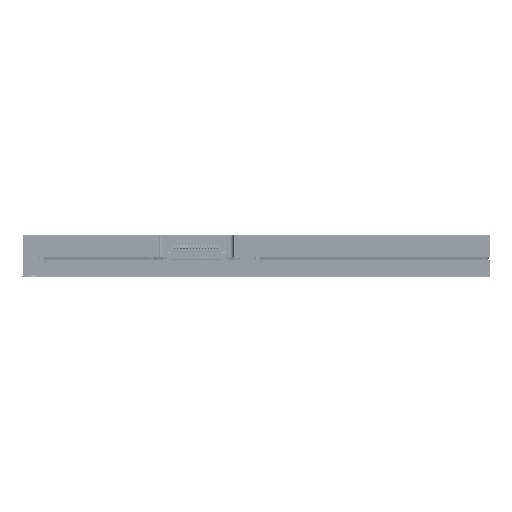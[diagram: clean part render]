
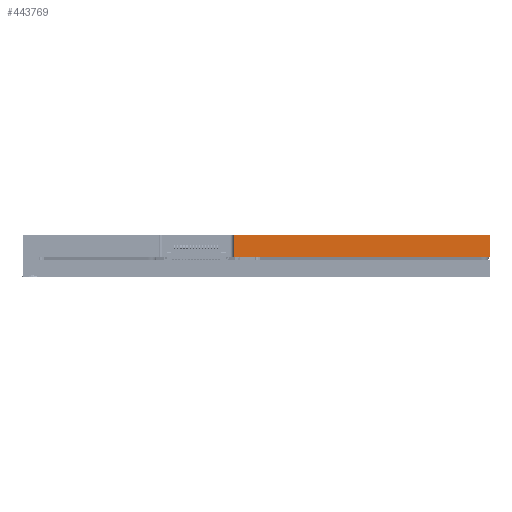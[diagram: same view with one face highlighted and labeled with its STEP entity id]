
A CAD part, front view. The second image highlights one B-rep face of the part: STEP entity #443769.
In plain terms, the highlighted free-form (B-spline) face has degree [1, 1] with [2, 2] control points.
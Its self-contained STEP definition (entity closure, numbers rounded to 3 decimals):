
#419242 = B_SPLINE_SURFACE_WITH_KNOTS('',1,1,(
    (#419243,#419244)
    ,(#419245,#419246
    )),.UNSPECIFIED.,.F.,.F.,.F.,(2,2),(2,2),(0.,1.),(0.,1.),
  .PIECEWISE_BEZIER_KNOTS.);
#419243 = CARTESIAN_POINT('',(76.2,0.,0.508));
#419244 = CARTESIAN_POINT('',(2.704,0.,0.508));
#419245 = CARTESIAN_POINT('',(76.2,35.56,0.508));
#419246 = CARTESIAN_POINT('',(2.704,35.56,0.508));
#428023 = VERTEX_POINT('',#428024);
#428024 = CARTESIAN_POINT('',(34.405,0.,0.508));
#428037 = B_SPLINE_SURFACE_WITH_KNOTS('',1,1,(
    (#428038,#428039)
    ,(#428040,#428041
    )),.UNSPECIFIED.,.F.,.F.,.F.,(2,2),(2,2),(0.,1.),(0.,1.),
  .PIECEWISE_BEZIER_KNOTS.);
#428038 = CARTESIAN_POINT('',(34.405,5.192,4.064));
#428039 = CARTESIAN_POINT('',(34.405,5.192,0.508));
#428040 = CARTESIAN_POINT('',(34.405,0.,4.064));
#428041 = CARTESIAN_POINT('',(34.405,0.,0.508));
#428048 = EDGE_CURVE('',#428023,#428049,#428051,.T.);
#428049 = VERTEX_POINT('',#428050);
#428050 = CARTESIAN_POINT('',(76.2,0.,0.508));
#428051 = SURFACE_CURVE('',#428052,(#428056,#428062),.PCURVE_S1.);
#428052 = LINE('',#428053,#428054);
#428053 = CARTESIAN_POINT('',(34.405,0.,0.508));
#428054 = VECTOR('',#428055,1.);
#428055 = DIRECTION('',(1.,0.,-0.));
#428056 = PCURVE('',#419242,#428057);
#428057 = DEFINITIONAL_REPRESENTATION('',(#428058),#428061);
#428058 = B_SPLINE_CURVE_WITH_KNOTS('',1,(#428059,#428060),
  .UNSPECIFIED.,.F.,.F.,(2,2),(0.,41.795),
  .PIECEWISE_BEZIER_KNOTS.);
#428059 = CARTESIAN_POINT('',(0.,0.569));
#428060 = CARTESIAN_POINT('',(0.,0.));
#428061 = ( GEOMETRIC_REPRESENTATION_CONTEXT(2) 
PARAMETRIC_REPRESENTATION_CONTEXT() REPRESENTATION_CONTEXT('2D SPACE',''
  ) );
#428062 = PCURVE('',#428063,#428068);
#428063 = B_SPLINE_SURFACE_WITH_KNOTS('',1,1,(
    (#428064,#428065)
    ,(#428066,#428067
    )),.UNSPECIFIED.,.F.,.F.,.F.,(2,2),(2,2),(0.,1.),(0.,1.),
  .PIECEWISE_BEZIER_KNOTS.);
#428064 = CARTESIAN_POINT('',(34.405,0.,4.064));
#428065 = CARTESIAN_POINT('',(34.405,0.,0.508));
#428066 = CARTESIAN_POINT('',(76.2,0.,4.064));
#428067 = CARTESIAN_POINT('',(76.2,0.,0.508));
#428068 = DEFINITIONAL_REPRESENTATION('',(#428069),#428072);
#428069 = B_SPLINE_CURVE_WITH_KNOTS('',1,(#428070,#428071),
  .UNSPECIFIED.,.F.,.F.,(2,2),(0.,41.795),
  .PIECEWISE_BEZIER_KNOTS.);
#428070 = CARTESIAN_POINT('',(0.,1.));
#428071 = CARTESIAN_POINT('',(1.,1.));
#428072 = ( GEOMETRIC_REPRESENTATION_CONTEXT(2) 
PARAMETRIC_REPRESENTATION_CONTEXT() REPRESENTATION_CONTEXT('2D SPACE',''
  ) );
#428089 = B_SPLINE_SURFACE_WITH_KNOTS('',1,1,(
    (#428090,#428091)
    ,(#428092,#428093
    )),.UNSPECIFIED.,.F.,.F.,.F.,(2,2),(2,2),(0.,1.),(0.,1.),
  .PIECEWISE_BEZIER_KNOTS.);
#428090 = CARTESIAN_POINT('',(76.2,0.,4.064));
#428091 = CARTESIAN_POINT('',(76.2,0.,0.508));
#428092 = CARTESIAN_POINT('',(76.2,35.56,4.064));
#428093 = CARTESIAN_POINT('',(76.2,35.56,0.508));
#436351 = B_SPLINE_SURFACE_WITH_KNOTS('',1,1,(
    (#436352,#436353)
    ,(#436354,#436355
    )),.UNSPECIFIED.,.F.,.F.,.F.,(2,2),(2,2),(0.,1.),(0.,1.),
  .PIECEWISE_BEZIER_KNOTS.);
#436352 = CARTESIAN_POINT('',(76.2,0.,4.064));
#436353 = CARTESIAN_POINT('',(0.,0.,4.064));
#436354 = CARTESIAN_POINT('',(76.2,35.56,4.064));
#436355 = CARTESIAN_POINT('',(0.,35.56,4.064));
#438049 = VERTEX_POINT('',#438050);
#438050 = CARTESIAN_POINT('',(34.405,0.,4.064));
#438069 = EDGE_CURVE('',#438049,#438070,#438072,.T.);
#438070 = VERTEX_POINT('',#438071);
#438071 = CARTESIAN_POINT('',(76.2,0.,4.064));
#438072 = SURFACE_CURVE('',#438073,(#438077,#438083),.PCURVE_S1.);
#438073 = LINE('',#438074,#438075);
#438074 = CARTESIAN_POINT('',(34.405,0.,4.064));
#438075 = VECTOR('',#438076,1.);
#438076 = DIRECTION('',(1.,0.,-0.));
#438077 = PCURVE('',#436351,#438078);
#438078 = DEFINITIONAL_REPRESENTATION('',(#438079),#438082);
#438079 = B_SPLINE_CURVE_WITH_KNOTS('',1,(#438080,#438081),
  .UNSPECIFIED.,.F.,.F.,(2,2),(0.,41.795),
  .PIECEWISE_BEZIER_KNOTS.);
#438080 = CARTESIAN_POINT('',(0.,0.548));
#438081 = CARTESIAN_POINT('',(0.,0.));
#438082 = ( GEOMETRIC_REPRESENTATION_CONTEXT(2) 
PARAMETRIC_REPRESENTATION_CONTEXT() REPRESENTATION_CONTEXT('2D SPACE',''
  ) );
#438083 = PCURVE('',#428063,#438084);
#438084 = DEFINITIONAL_REPRESENTATION('',(#438085),#438088);
#438085 = B_SPLINE_CURVE_WITH_KNOTS('',1,(#438086,#438087),
  .UNSPECIFIED.,.F.,.F.,(2,2),(0.,41.795),
  .PIECEWISE_BEZIER_KNOTS.);
#438086 = CARTESIAN_POINT('',(0.,0.));
#438087 = CARTESIAN_POINT('',(1.,0.));
#438088 = ( GEOMETRIC_REPRESENTATION_CONTEXT(2) 
PARAMETRIC_REPRESENTATION_CONTEXT() REPRESENTATION_CONTEXT('2D SPACE',''
  ) );
#443769 = ADVANCED_FACE('',(#443770),#428063,.F.);
#443770 = FACE_BOUND('',#443771,.F.);
#443771 = EDGE_LOOP('',(#443772,#443791,#443792,#443811));
#443772 = ORIENTED_EDGE('',*,*,#443773,.T.);
#443773 = EDGE_CURVE('',#438070,#428049,#443774,.T.);
#443774 = SURFACE_CURVE('',#443775,(#443779,#443785),.PCURVE_S1.);
#443775 = LINE('',#443776,#443777);
#443776 = CARTESIAN_POINT('',(76.2,0.,4.064));
#443777 = VECTOR('',#443778,1.);
#443778 = DIRECTION('',(0.,0.,-1.));
#443779 = PCURVE('',#428063,#443780);
#443780 = DEFINITIONAL_REPRESENTATION('',(#443781),#443784);
#443781 = B_SPLINE_CURVE_WITH_KNOTS('',1,(#443782,#443783),
  .UNSPECIFIED.,.F.,.F.,(2,2),(0.,3.556),.PIECEWISE_BEZIER_KNOTS.);
#443782 = CARTESIAN_POINT('',(1.,0.));
#443783 = CARTESIAN_POINT('',(1.,1.));
#443784 = ( GEOMETRIC_REPRESENTATION_CONTEXT(2) 
PARAMETRIC_REPRESENTATION_CONTEXT() REPRESENTATION_CONTEXT('2D SPACE',''
  ) );
#443785 = PCURVE('',#428089,#443786);
#443786 = DEFINITIONAL_REPRESENTATION('',(#443787),#443790);
#443787 = B_SPLINE_CURVE_WITH_KNOTS('',1,(#443788,#443789),
  .UNSPECIFIED.,.F.,.F.,(2,2),(0.,3.556),.PIECEWISE_BEZIER_KNOTS.);
#443788 = CARTESIAN_POINT('',(0.,0.));
#443789 = CARTESIAN_POINT('',(0.,1.));
#443790 = ( GEOMETRIC_REPRESENTATION_CONTEXT(2) 
PARAMETRIC_REPRESENTATION_CONTEXT() REPRESENTATION_CONTEXT('2D SPACE',''
  ) );
#443791 = ORIENTED_EDGE('',*,*,#428048,.F.);
#443792 = ORIENTED_EDGE('',*,*,#443793,.T.);
#443793 = EDGE_CURVE('',#428023,#438049,#443794,.T.);
#443794 = SURFACE_CURVE('',#443795,(#443799,#443805),.PCURVE_S1.);
#443795 = LINE('',#443796,#443797);
#443796 = CARTESIAN_POINT('',(34.405,0.,0.508));
#443797 = VECTOR('',#443798,1.);
#443798 = DIRECTION('',(-0.,0.,1.));
#443799 = PCURVE('',#428063,#443800);
#443800 = DEFINITIONAL_REPRESENTATION('',(#443801),#443804);
#443801 = B_SPLINE_CURVE_WITH_KNOTS('',1,(#443802,#443803),
  .UNSPECIFIED.,.F.,.F.,(2,2),(0.,3.556),.PIECEWISE_BEZIER_KNOTS.);
#443802 = CARTESIAN_POINT('',(0.,1.));
#443803 = CARTESIAN_POINT('',(0.,0.));
#443804 = ( GEOMETRIC_REPRESENTATION_CONTEXT(2) 
PARAMETRIC_REPRESENTATION_CONTEXT() REPRESENTATION_CONTEXT('2D SPACE',''
  ) );
#443805 = PCURVE('',#428037,#443806);
#443806 = DEFINITIONAL_REPRESENTATION('',(#443807),#443810);
#443807 = B_SPLINE_CURVE_WITH_KNOTS('',1,(#443808,#443809),
  .UNSPECIFIED.,.F.,.F.,(2,2),(0.,3.556),.PIECEWISE_BEZIER_KNOTS.);
#443808 = CARTESIAN_POINT('',(1.,1.));
#443809 = CARTESIAN_POINT('',(1.,0.));
#443810 = ( GEOMETRIC_REPRESENTATION_CONTEXT(2) 
PARAMETRIC_REPRESENTATION_CONTEXT() REPRESENTATION_CONTEXT('2D SPACE',''
  ) );
#443811 = ORIENTED_EDGE('',*,*,#438069,.T.);
